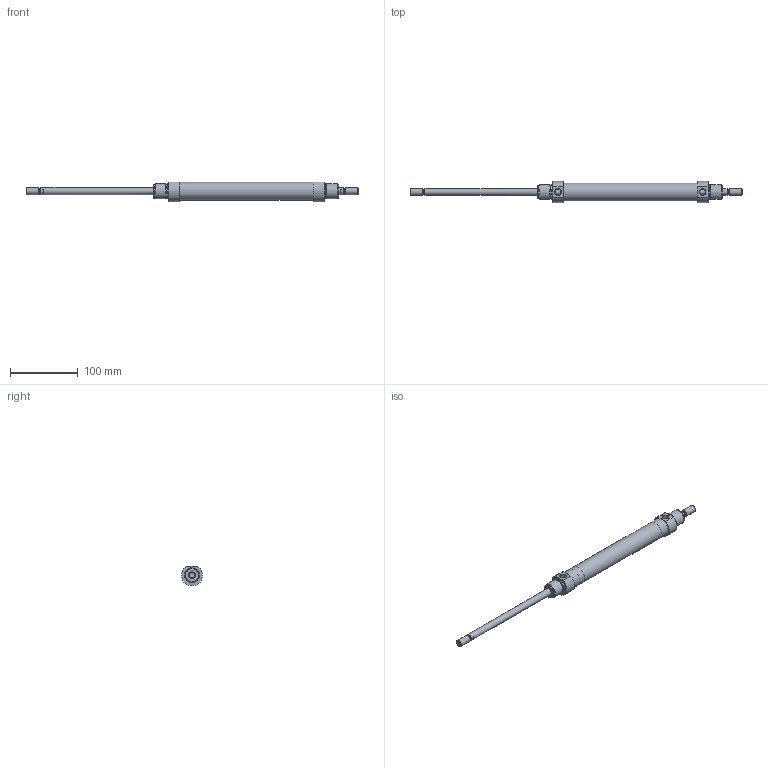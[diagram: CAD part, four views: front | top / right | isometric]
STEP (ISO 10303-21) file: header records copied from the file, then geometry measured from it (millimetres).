
FILE_DESCRIPTION( ( 'STEP AP203' ), '1' );
FILE_NAME( '//expscmdclustefs.cadenas.external/client_exchange/iodir/jobs/output/wkb68469639_no0/STEP/M101-025-0160-M__0__2_03.stp', ' ', ( ' ' ), ( ' ' ), 'PSStep 15.0.47', 'PARTsolutions', ' ' );
FILE_SCHEMA( ( 'CONFIG_CONTROL_DESIGN' ) );
Length unit declared in the file: millimetre
Products named in the file (3): M101-025-0160-M [0]; HI_M101-025-0160-M-[0]-z; HI_M101-025-0160-M-[0]-k
Assembly tree (2 placements, depth 2):
  M101-025-0160-M [0]
    HI_M101-025-0160-M-[0]-z
    HI_M101-025-0160-M-[0]-k
Bounding box: 489 x 31 x 28.79 mm (x, y, z)
Volume: 98924.4 mm3; surface area: 58754.5 mm2
Topology: 2 solids, 2 shells, 63 faces, 123 edges, 74 vertices
Faces by surface type: plane 28, cylinder 23, cone 10, torus 2
Full cylindrical faces by diameter (mm): 8.16 x2, 8.566 x2, 10 x6, 20.16 x4, 22 x4, 25 x2, 26.6 x1
Entity records: 1700 total; most frequent: CARTESIAN_POINT 390, DIRECTION 276, ORIENTED_EDGE 176, AXIS2_PLACEMENT_3D 124, EDGE_LOOP 112, EDGE_CURVE 88, FACE_OUTER_BOUND 86, VERTEX_POINT 72
